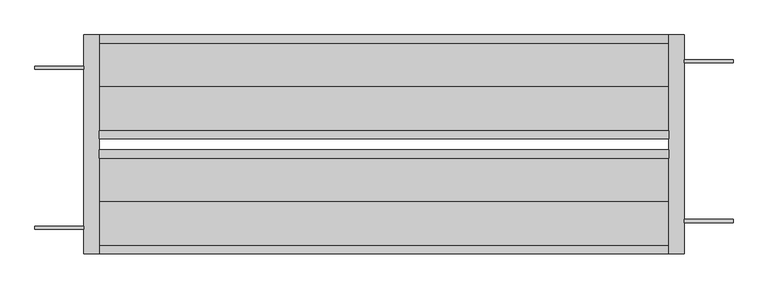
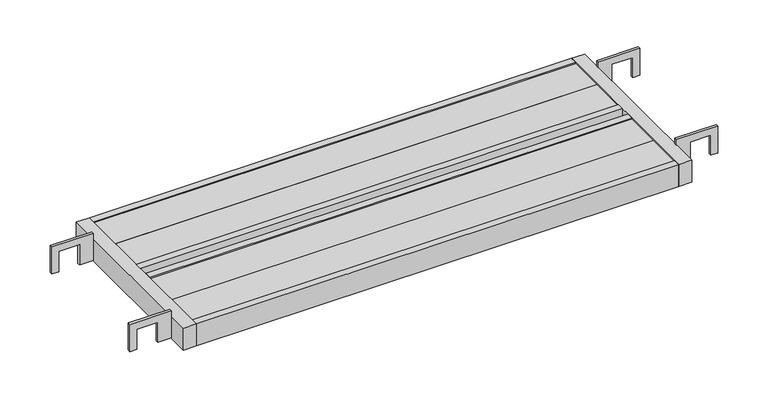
"""IFC4 building model written with IfcOpenShell, lengths in millimetres: proxy geometry, AKK布板HF-412_軽 : 鋼製布板 HF-412_軽."""

from ifc_helpers import new_model, si_unit, frame, origin, place, context, project, spatial, polyline, outline, extrude, source, transform, mapped, element, save


def generic_models_86c40f9e(model_context):
    return source(origin(), model_context, "Body", "SweptSolid", [
        extrude(outline(polyline([(37.5, 1157.5), (-24.1, 1157.5), (-24.1, 1187.0), (22.0, 1187.0), (22.0, 1232.0), (-24.1, 1232.0), (-24.1, 1247.0), (37.5, 1247.0), (37.5, 1157.5)])), frame((0.0, 63.0, 0.0), z_axis=(0.0, 1.0, 0.0), x_axis=(0.0, 0.0, 1.0)), (0.0, 0.0, 1.0), 6.0),
        extrude(outline(polyline([(37.5, 1157.5), (-24.1, 1157.5), (-24.1, 1187.0), (22.0, 1187.0), (22.0, 1232.0), (-24.1, 1232.0), (-24.1, 1247.0), (37.5, 1247.0), (37.5, 1157.5)])), frame((0.0, 355.0, 0.0), z_axis=(0.0, 1.0, 0.0), x_axis=(0.0, 0.0, 1.0)), (0.0, 0.0, 1.0), 6.0),
        extrude(outline(polyline([(37.5, -28.0), (-24.1, -28.0), (-24.1, -13.0), (22.0, -13.0), (22.0, 32.0), (-24.1, 32.0), (-24.1, 61.5), (37.5, 61.5), (37.5, -28.0)])), frame((0.0, 51.0, 0.0), z_axis=(0.0, 1.0, 0.0), x_axis=(0.0, 0.0, 1.0)), (0.0, 0.0, 1.0), 5.983494),
        extrude(outline(polyline([(37.5, -28.0), (-24.1, -28.0), (-24.1, -13.0), (22.0, -13.0), (22.0, 32.0), (-24.1, 32.0), (-24.1, 61.5), (37.5, 61.5), (37.5, -28.0)])), frame((0.0, 343.0, 0.0), z_axis=(0.0, 1.0, 0.0), x_axis=(0.0, 0.0, 1.0)), (0.0, 0.0, 1.0), 6.0),
        extrude(outline(polyline([(1129.5, 231.0), (1129.5, 216.0), (89.5, 216.0), (89.5, 231.0), (1129.5, 231.0)])), frame((0.0, 0.0, -25.0), z_axis=(0.0, 0.0, 1.0), x_axis=(1.0, 0.0, 0.0)), (0.0, 0.0, 1.0), 50.0),
        extrude(outline(polyline([(1129.5, 101.0), (1129.5, 21.0), (89.5, 21.0), (89.5, 101.0), (1129.5, 101.0)])), frame((0.0, 0.0, 17.5), z_axis=(0.0, 0.0, 1.0), x_axis=(1.0, 0.0, 0.0)), (0.0, 0.0, 1.0), 5.0),
        extrude(outline(polyline([(1129.5, 181.0), (1129.5, 101.0), (89.5, 101.0), (89.5, 181.0), (1129.5, 181.0)])), frame((0.0, 0.0, 17.5), z_axis=(0.0, 0.0, 1.0), x_axis=(1.0, 0.0, 0.0)), (0.0, 0.0, 1.0), 5.0),
        extrude(outline(polyline([(1129.5, 311.0), (1129.5, 231.0), (89.5, 231.0), (89.5, 311.0), (1129.5, 311.0)])), frame((0.0, 0.0, 17.5), z_axis=(0.0, 0.0, 1.0), x_axis=(1.0, 0.0, 0.0)), (0.0, 0.0, 1.0), 5.0),
        extrude(outline(polyline([(1129.5, 391.0), (1129.5, 311.0), (89.5, 311.0), (89.5, 391.0), (1129.5, 391.0)])), frame((0.0, 0.0, 17.5), z_axis=(0.0, 0.0, 1.0), x_axis=(1.0, 0.0, 0.0)), (0.0, 0.0, 1.0), 5.0),
        extrude(outline(polyline([(1129.5, 196.0), (1129.5, 181.0), (89.5, 181.0), (89.5, 196.0), (1129.5, 196.0)])), frame((0.0, 0.0, -25.0), z_axis=(0.0, 0.0, 1.0), x_axis=(1.0, 0.0, 0.0)), (0.0, 0.0, 1.0), 50.0),
        extrude(outline(polyline([(1129.5, 6.0), (1129.5, 406.0), (1157.5, 406.0), (1157.5, 6.0), (1129.5, 6.0)])), frame((0.0, 0.0, -25.0), z_axis=(0.0, 0.0, 1.0), x_axis=(1.0, 0.0, 0.0)), (0.0, 0.0, 1.0), 50.0),
        extrude(outline(polyline([(61.5, 6.0), (61.5, 406.0), (89.5, 406.0), (89.5, 6.0), (61.5, 6.0)])), frame((0.0, 0.0, -25.0), z_axis=(0.0, 0.0, 1.0), x_axis=(1.0, 0.0, 0.0)), (0.0, 0.0, 1.0), 50.0),
        extrude(outline(polyline([(1129.5, 406.0), (1129.5, 391.0), (89.5, 391.0), (89.5, 406.0), (1129.5, 406.0)])), frame((0.0, 0.0, -25.0), z_axis=(0.0, 0.0, 1.0), x_axis=(1.0, 0.0, 0.0)), (0.0, 0.0, 1.0), 50.0),
        extrude(outline(polyline([(1129.5, 21.0), (1129.5, 6.0), (89.5, 6.0), (89.5, 21.0), (1129.5, 21.0)])), frame((0.0, 0.0, -25.0), z_axis=(0.0, 0.0, 1.0), x_axis=(1.0, 0.0, 0.0)), (0.0, 0.0, 1.0), 50.0),
    ])


if __name__ == "__main__":
    model = new_model("IFC4")
    model_context = context("Model", 3, world=origin())
    ifc_project = project(units=[si_unit("LENGTHUNIT", "METRE", prefix="MILLI")], contexts=[model_context])
    site = spatial("IfcSite", under=ifc_project)
    building = spatial("IfcBuilding", under=site)
    placement = place(None, origin())
    generic_models_shape = generic_models_86c40f9e(model_context)
    element("IfcBuildingElementProxy", 1, Name="AKK布板HF-412_軽 : 鋼製布板 HF-412_軽", ObjectType="AKK布板HF-412_軽 : 鋼製布板 HF-412_軽", at=placement, inside=building, context=model_context, shape_type="MappedRepresentation", body=[
        mapped(generic_models_shape, transform((0.0, 0.0, 0.0), x_axis=(1.0, 0.0, 0.0), y_axis=(0.0, 1.0, 0.0), z_axis=(0.0, 0.0, 1.0))),
    ])
    save(model, "model.ifc")
